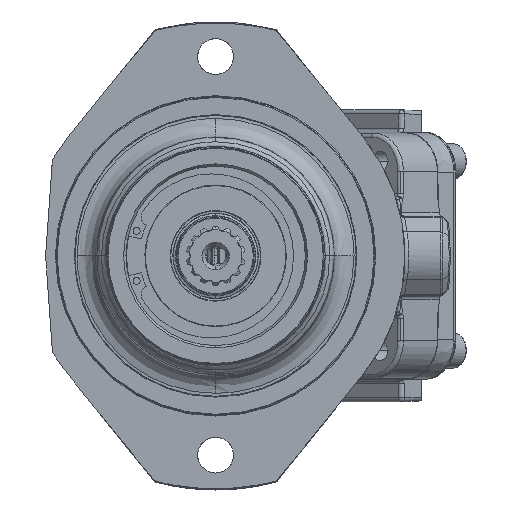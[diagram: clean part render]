
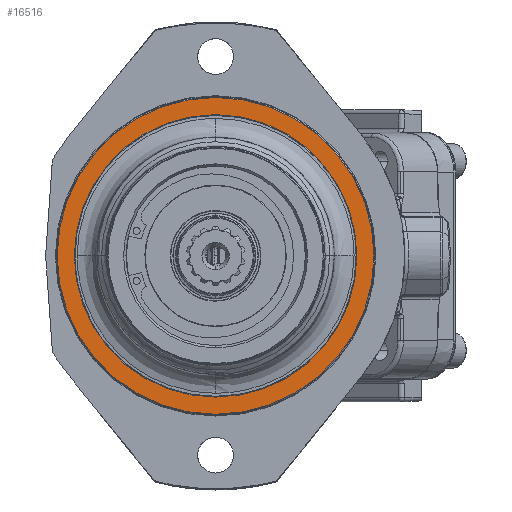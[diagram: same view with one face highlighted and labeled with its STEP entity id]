
A CAD part, left-side view. The second image highlights one B-rep face of the part: STEP entity #16516.
In plain terms, the highlighted planar face has unit normal (-1, 0, 0).
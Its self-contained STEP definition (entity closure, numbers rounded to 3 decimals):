
#2495 = AXIS2_PLACEMENT_3D ( 'NONE', #43739, #16546, #48357 ) ;
#2512 = CIRCLE ( 'NONE', #2495, 70.9 ) ;
#3829 = CARTESIAN_POINT ( 'NONE',  ( -22.3, 0., 70.9 ) ) ;
#4269 = DIRECTION ( 'NONE',  ( 0., 0., 1. ) ) ;
#4510 = CARTESIAN_POINT ( 'NONE',  ( -22.3, 0., 0. ) ) ;
#5833 = AXIS2_PLACEMENT_3D ( 'NONE', #58694, #31539, #4269 ) ;
#9079 = DIRECTION ( 'NONE',  ( 0., 0., 1. ) ) ;
#9097 = ORIENTED_EDGE ( 'NONE', *, *, #20826, .T. ) ;
#9101 = CIRCLE ( 'NONE', #14735, 70.9 ) ;
#9438 = AXIS2_PLACEMENT_3D ( 'NONE', #4510, #36334, #9079 ) ;
#12401 = ORIENTED_EDGE ( 'NONE', *, *, #49399, .T. ) ;
#14735 = AXIS2_PLACEMENT_3D ( 'NONE', #19568, #51356, #24119 ) ;
#14753 = AXIS2_PLACEMENT_3D ( 'NONE', #22303, #54071, #26905 ) ;
#16516 = ADVANCED_FACE ( 'NONE', ( #30946, #18818 ), #58422, .T. ) ;
#16546 = DIRECTION ( 'NONE',  ( 1., 0., 0. ) ) ;
#18818 = FACE_OUTER_BOUND ( 'NONE', #25655, .T. ) ;
#19337 = CARTESIAN_POINT ( 'NONE',  ( -22.3, 0., -79.5 ) ) ;
#19568 = CARTESIAN_POINT ( 'NONE',  ( -22.3, 0., 0. ) ) ;
#20001 = VERTEX_POINT ( 'NONE', #3829 ) ;
#20495 = ORIENTED_EDGE ( 'NONE', *, *, #44296, .T. ) ;
#20826 = EDGE_CURVE ( 'NONE', #34387, #21850, #51628, .T. ) ;
#21850 = VERTEX_POINT ( 'NONE', #19337 ) ;
#22303 = CARTESIAN_POINT ( 'NONE',  ( -22.3, 70.5, 0. ) ) ;
#24119 = DIRECTION ( 'NONE',  ( 0., 0., 1. ) ) ;
#25655 = EDGE_LOOP ( 'NONE', ( #12401, #9097 ) ) ;
#26905 = DIRECTION ( 'NONE',  ( 0., 0., 1. ) ) ;
#27377 = CARTESIAN_POINT ( 'NONE',  ( -22.3, 0., -70.9 ) ) ;
#30227 = VERTEX_POINT ( 'NONE', #27377 ) ;
#30946 = FACE_BOUND ( 'NONE', #32326, .T. ) ;
#31539 = DIRECTION ( 'NONE',  ( -1., 0., 0. ) ) ;
#32242 = CIRCLE ( 'NONE', #9438, 79.5 ) ;
#32326 = EDGE_LOOP ( 'NONE', ( #57608, #20495 ) ) ;
#34387 = VERTEX_POINT ( 'NONE', #51489 ) ;
#36334 = DIRECTION ( 'NONE',  ( -1., 0., 0. ) ) ;
#43739 = CARTESIAN_POINT ( 'NONE',  ( -22.3, 0., 0. ) ) ;
#44296 = EDGE_CURVE ( 'NONE', #30227, #20001, #9101, .T. ) ;
#48357 = DIRECTION ( 'NONE',  ( 0., 0., 1. ) ) ;
#48611 = EDGE_CURVE ( 'NONE', #20001, #30227, #2512, .T. ) ;
#49399 = EDGE_CURVE ( 'NONE', #21850, #34387, #32242, .T. ) ;
#51356 = DIRECTION ( 'NONE',  ( 1., 0., 0. ) ) ;
#51489 = CARTESIAN_POINT ( 'NONE',  ( -22.3, 0., 79.5 ) ) ;
#51628 = CIRCLE ( 'NONE', #5833, 79.5 ) ;
#54071 = DIRECTION ( 'NONE',  ( -1., 0., 0. ) ) ;
#57608 = ORIENTED_EDGE ( 'NONE', *, *, #48611, .T. ) ;
#58422 = PLANE ( 'NONE',  #14753 ) ;
#58694 = CARTESIAN_POINT ( 'NONE',  ( -22.3, 0., 0. ) ) ;
